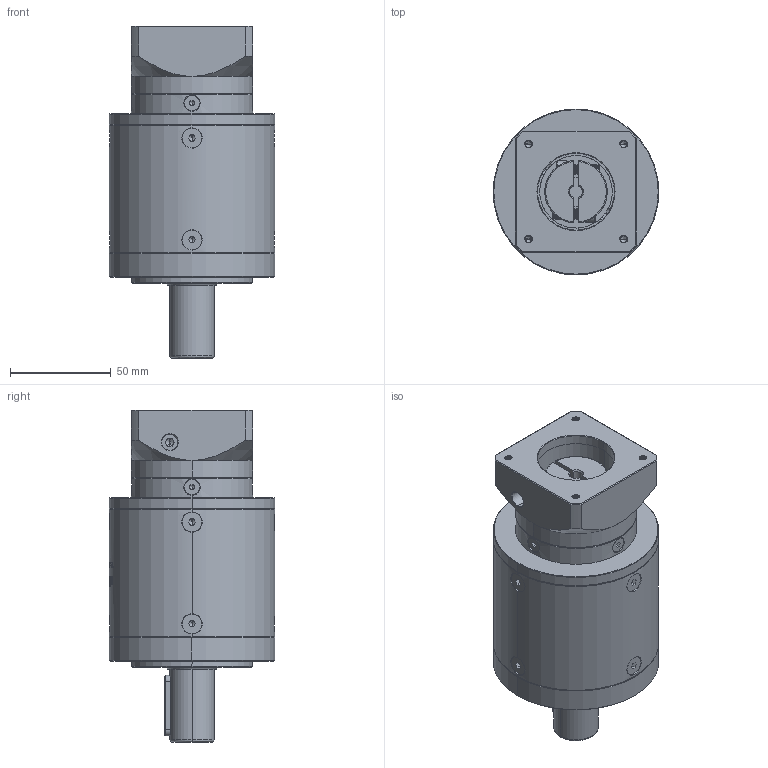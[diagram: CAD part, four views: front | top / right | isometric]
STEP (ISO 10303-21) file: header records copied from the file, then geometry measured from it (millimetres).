
FILE_DESCRIPTION (( 'STEP AP214' ), '1' );
FILE_NAME ('ZE80-D22-L3-6.35-38.1-47.14X47.14-M4.step', '2022-05-08T06:05:31', ( '' ), ( 'Microsoft' ), 'SwSTEP 2.0', 'SolidWorks 2016', '' );
FILE_SCHEMA (( 'AUTOMOTIVE_DESIGN' ));
Length unit declared in the file: millimetre
Products named in the file (1): ZE80-D22-L3-6.35-38.1-47.14X47.14-M4
Bounding box: 82 x 82 x 164.5 mm (x, y, z)
Volume: 554235.1 mm3; surface area: 69333 mm2
Topology: 18 solids, 18 shells, 2087 faces, 5493 edges, 3497 vertices
Faces by surface type: plane 943, cylinder 485, bspline 340, cone 305, torus 14
Entity records: 116129 total; most frequent: CARTESIAN_POINT 45751, ORIENTED_EDGE 10894, DIRECTION 8477, EDGE_CURVE 5447, VERTEX_POINT 3497, LINE 2899, VECTOR 2899, AXIS2_PLACEMENT_3D 2789
